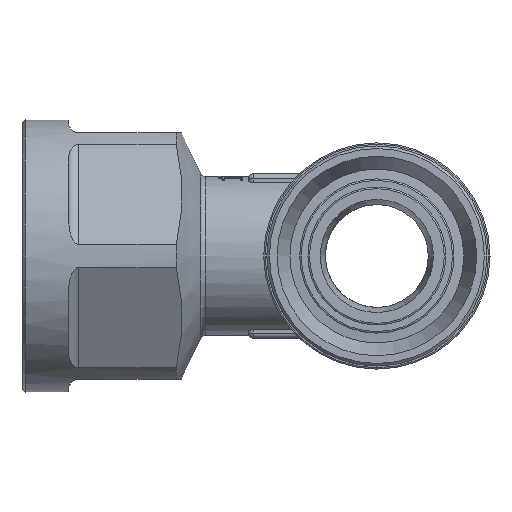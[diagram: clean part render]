
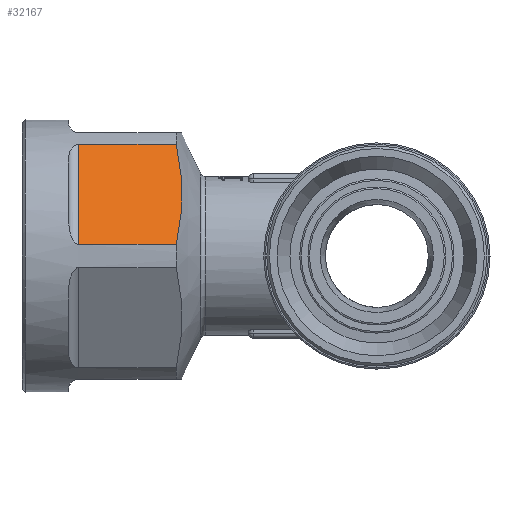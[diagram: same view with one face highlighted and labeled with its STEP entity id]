
A CAD part, left-side view. The second image highlights one B-rep face of the part: STEP entity #32167.
In plain terms, the highlighted planar face has unit normal (-0.866, 0, 0.5).
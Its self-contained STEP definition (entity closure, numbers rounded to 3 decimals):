
#29=(
BOUNDED_CURVE()
B_SPLINE_CURVE(2,(#43819,#43820,#43821),.UNSPECIFIED.,.F.,.F.)
B_SPLINE_CURVE_WITH_KNOTS((3,3),(0.,1.129),.UNSPECIFIED.)
CURVE()
GEOMETRIC_REPRESENTATION_ITEM()
RATIONAL_B_SPLINE_CURVE((1.,1.104,1.))
REPRESENTATION_ITEM('')
);
#1204=PLANE('',#34057);
#3044=FACE_OUTER_BOUND('',#5092,.T.);
#5092=EDGE_LOOP('',(#24080,#24081,#24082,#24083));
#8313=LINE('',#42260,#10669);
#9138=LINE('',#49331,#11494);
#9139=LINE('',#49332,#11495);
#10669=VECTOR('',#35459,10.);
#11494=VECTOR('',#37346,10.);
#11495=VECTOR('',#37347,10.);
#13043=VERTEX_POINT('',#42227);
#13046=VERTEX_POINT('',#42245);
#13316=VERTEX_POINT('',#43816);
#13317=VERTEX_POINT('',#43818);
#16416=EDGE_CURVE('',#13046,#13043,#8313,.T.);
#16702=EDGE_CURVE('',#13316,#13317,#29,.T.);
#17760=EDGE_CURVE('',#13317,#13046,#9138,.T.);
#17761=EDGE_CURVE('',#13043,#13316,#9139,.T.);
#24080=ORIENTED_EDGE('',*,*,#16416,.F.);
#24081=ORIENTED_EDGE('',*,*,#17760,.F.);
#24082=ORIENTED_EDGE('',*,*,#16702,.F.);
#24083=ORIENTED_EDGE('',*,*,#17761,.F.);
#32167=ADVANCED_FACE('',(#3044),#1204,.F.);
#34057=AXIS2_PLACEMENT_3D('',#49330,#37344,#37345);
#35459=DIRECTION('',(0.5,0.,0.866));
#37344=DIRECTION('center_axis',(0.866,0.,-0.5));
#37345=DIRECTION('ref_axis',(0.5,0.,0.866));
#37346=DIRECTION('',(0.,1.,0.));
#37347=DIRECTION('',(0.,-1.,0.));
#42227=CARTESIAN_POINT('',(-7.583,29.,10.865));
#42245=CARTESIAN_POINT('',(-13.201,29.,1.135));
#42260=CARTESIAN_POINT('',(-12.124,29.,3.));
#43816=CARTESIAN_POINT('',(-7.583,19.5,10.865));
#43818=CARTESIAN_POINT('',(-13.201,19.5,1.135));
#43819=CARTESIAN_POINT('Ctrl Pts',(-7.583,19.5,10.865));
#43820=CARTESIAN_POINT('Ctrl Pts',(-10.392,18.417,6.));
#43821=CARTESIAN_POINT('Ctrl Pts',(-13.201,19.5,1.135));
#49330=CARTESIAN_POINT('Origin',(-13.856,30.,0.));
#49331=CARTESIAN_POINT('',(-13.201,27.,1.135));
#49332=CARTESIAN_POINT('',(-7.583,27.,10.865));
